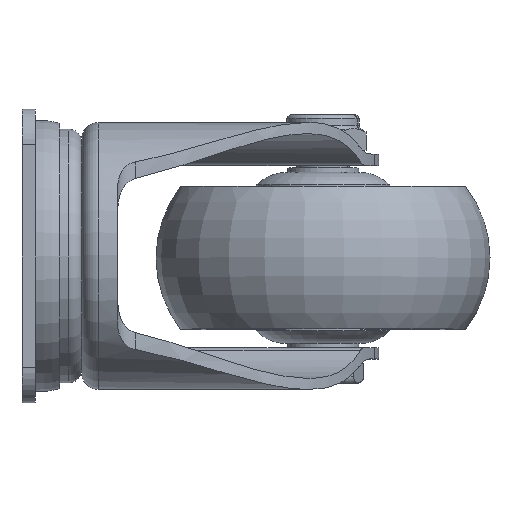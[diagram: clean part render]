
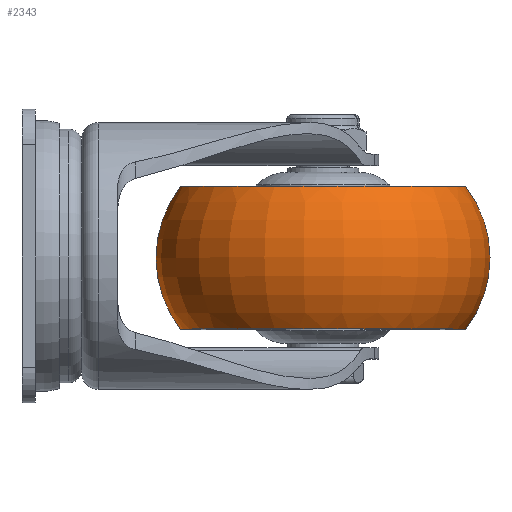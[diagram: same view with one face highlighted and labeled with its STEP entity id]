
A CAD part, left-side view. The second image highlights one B-rep face of the part: STEP entity #2343.
In plain terms, the highlighted toroidal (fillet/blend) face has major radius 11.477 mm and minor radius 26.023 mm.
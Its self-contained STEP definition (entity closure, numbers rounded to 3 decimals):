
#2118 = VERTEX_POINT ( 'NONE', #17955 ) ;
#2119 = VERTEX_POINT ( 'NONE', #17954 ) ;
#2122 = EDGE_CURVE ( 'NONE', #2119, #2124, #17950, .T. ) ;
#2124 = VERTEX_POINT ( 'NONE', #17942 ) ;
#2273 = VERTEX_POINT ( 'NONE', #18452 ) ;
#2277 = EDGE_CURVE ( 'NONE', #2118, #2273, #18453, .T. ) ;
#2340 = EDGE_CURVE ( 'NONE', #2119, #2118, #18645, .T. ) ;
#2343 = ADVANCED_FACE ( 'NONE', ( #18647 ), #18531, .T. ) ;
#2345 = EDGE_LOOP ( 'NONE', ( #2346, #2347, #2348, #2350 ) ) ;
#2346 = ORIENTED_EDGE ( 'NONE', *, *, #2122, .F. ) ;
#2347 = ORIENTED_EDGE ( 'NONE', *, *, #2340, .T. ) ;
#2348 = ORIENTED_EDGE ( 'NONE', *, *, #2277, .T. ) ;
#2350 = ORIENTED_EDGE ( 'NONE', *, *, #2352, .F. ) ;
#2352 = EDGE_CURVE ( 'NONE', #2124, #2273, #18532, .T. ) ;
#17942 = CARTESIAN_POINT ( 'NONE',  ( 0., -16., 32. ) ) ;
#17944 = DIRECTION ( 'NONE',  ( 0., 0., -1. ) ) ;
#17946 = DIRECTION ( 'NONE',  ( 1., 0., 0. ) ) ;
#17947 = CARTESIAN_POINT ( 'NONE',  ( 0., 0., 11.477 ) ) ;
#17948 = AXIS2_PLACEMENT_3D ( 'NONE', #17947, #17946, #17944 ) ;
#17950 = CIRCLE ( 'NONE', #17948, 26.023 ) ;
#17954 = CARTESIAN_POINT ( 'NONE',  ( 0., 16., 32. ) ) ;
#17955 = CARTESIAN_POINT ( 'NONE',  ( 0., 16., -32. ) ) ;
#18438 = DIRECTION ( 'NONE',  ( 0., 0., 1. ) ) ;
#18439 = DIRECTION ( 'NONE',  ( -1., 0., 0. ) ) ;
#18440 = CARTESIAN_POINT ( 'NONE',  ( 0., 0., -11.477 ) ) ;
#18441 = AXIS2_PLACEMENT_3D ( 'NONE', #18440, #18439, #18438 ) ;
#18452 = CARTESIAN_POINT ( 'NONE',  ( 0., -16., -32. ) ) ;
#18453 = CIRCLE ( 'NONE', #18441, 26.023 ) ;
#18517 = DIRECTION ( 'NONE',  ( 0., 0., -1. ) ) ;
#18519 = DIRECTION ( 'NONE',  ( 0., -1., 0. ) ) ;
#18521 = CARTESIAN_POINT ( 'NONE',  ( 0., -16., 0. ) ) ;
#18522 = AXIS2_PLACEMENT_3D ( 'NONE', #18521, #18519, #18517 ) ;
#18526 = DIRECTION ( 'NONE',  ( 0., 0., -1. ) ) ;
#18528 = DIRECTION ( 'NONE',  ( 0., -1., 0. ) ) ;
#18529 = AXIS2_PLACEMENT_3D ( 'NONE', #18536, #18528, #18526 ) ;
#18531 = TOROIDAL_SURFACE ( 'NONE', #18529, 11.477, 26.023 ) ;
#18532 = CIRCLE ( 'NONE', #18522, 32. ) ;
#18536 = CARTESIAN_POINT ( 'NONE',  ( 0., 0., 0. ) ) ;
#18539 = DIRECTION ( 'NONE',  ( 0., 0., -1. ) ) ;
#18639 = DIRECTION ( 'NONE',  ( 0., -1., 0. ) ) ;
#18641 = CARTESIAN_POINT ( 'NONE',  ( 0., 16., 0. ) ) ;
#18643 = AXIS2_PLACEMENT_3D ( 'NONE', #18641, #18639, #18539 ) ;
#18645 = CIRCLE ( 'NONE', #18643, 32. ) ;
#18647 = FACE_OUTER_BOUND ( 'NONE', #2345, .T. ) ;
